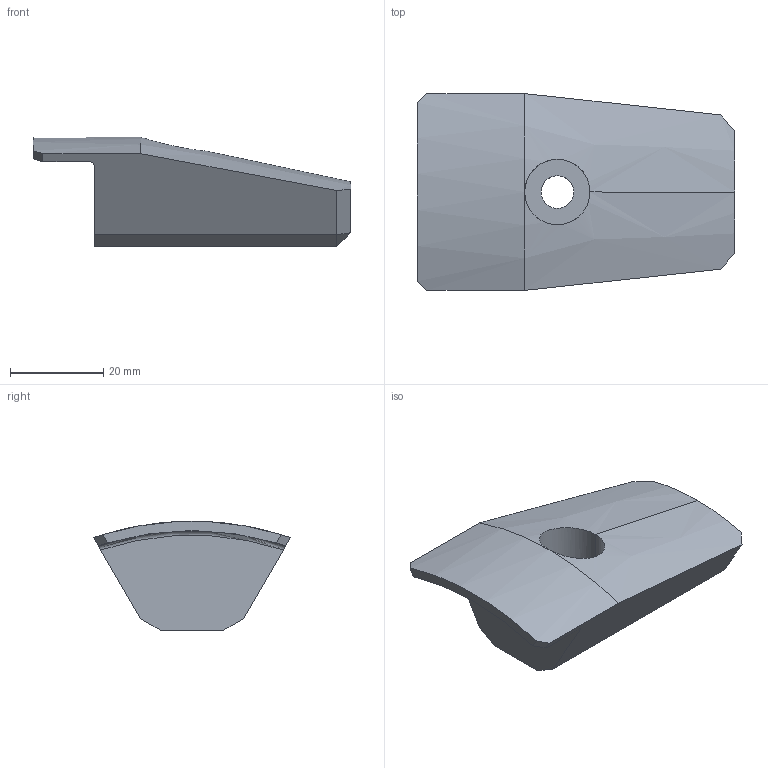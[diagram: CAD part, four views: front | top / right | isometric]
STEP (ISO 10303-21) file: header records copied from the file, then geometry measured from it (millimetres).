
FILE_DESCRIPTION(('CATIA V5 STEP Exchange','CAx-IF Rec.Pracs.--- Model Styling and Organization---1.5--- 2016-08-15','CAx-IF Rec.Pracs.---Supplemental Geometry---1.0---2011-11-01','CAx-IF Rec.Pracs.--- Composite Materials ---1.1---2010-07-15'),'2;1');
FILE_NAME('W:\8-25-003 RENOVATION DEBITMETRE PHI100 A S3\CATIA\Etude\S3MA-8-25003-1013--_BOUCHON.stp','2026-02-06T10:12:04+00:00',('none'),('none'),'CATIA Version 5-6 Release 2020 SP6 HF13','CATIA V5 STEP AP214 v2','none');
FILE_SCHEMA(('AUTOMOTIVE_DESIGN { 1 0 10303 214 1 1 1 1 }'));
Length unit declared in the file: millimetre
Products named in the file (1): S3MA-8-25003-1013--_BOUCHON
Bounding box: 68 x 42.22 x 23.5 mm (x, y, z)
Volume: 28818.5 mm3; surface area: 7992.5 mm2
Topology: 1 solids, 1 shells, 25 faces, 60 edges, 37 vertices
Faces by surface type: plane 16, cylinder 6, cone 2, torus 1
Entity records: 754 total; most frequent: CARTESIAN_POINT 186, ORIENTED_EDGE 120, DIRECTION 92, EDGE_CURVE 60, AXIS2_PLACEMENT_3D 37, VERTEX_POINT 37, VECTOR 34, LINE 34
